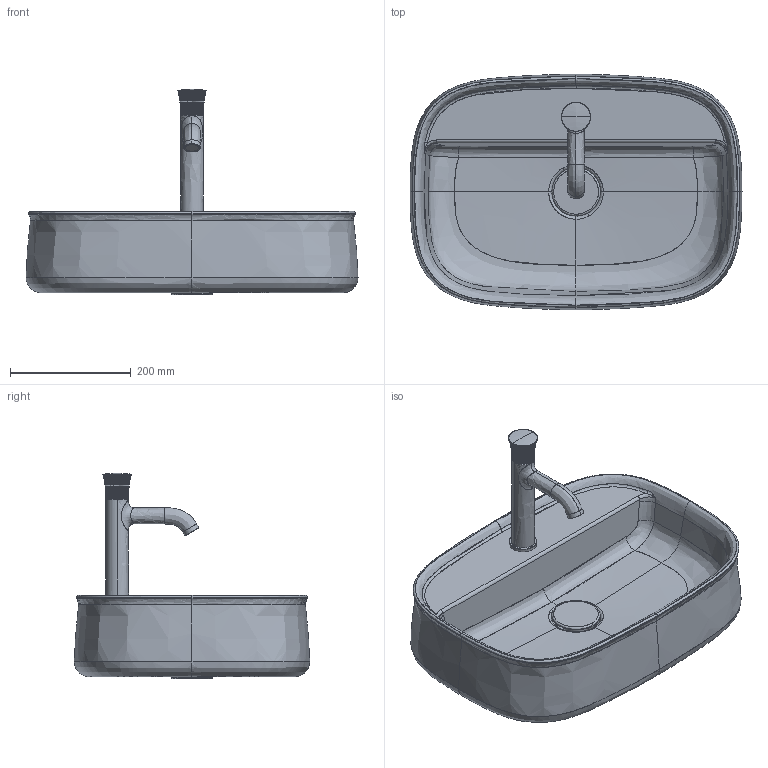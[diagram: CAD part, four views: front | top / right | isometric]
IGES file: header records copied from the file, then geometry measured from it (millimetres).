
Global section: file name: d:\users\matthias.isele\Desktop\Planungsdaten_erstellen\Zencha\237455\3D\237455.igs; native system: Rhinoceros ( Sep 13 2016 ); preprocessor: Trout Lake IGES 012 Sep 13 2016; date: 210921.062908; units: millimetre
Bounding box: 550.08 x 390.08 x 340.09 mm (x, y, z)
Surface area: 786422.9 mm2 (no closed solid volume)
Topology: 0 solids, 0 shells, 1365 faces, 8284 edges, 8272 vertices
Faces by surface type: bspline 1365
